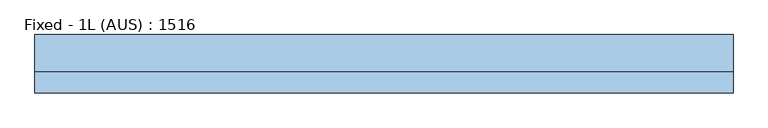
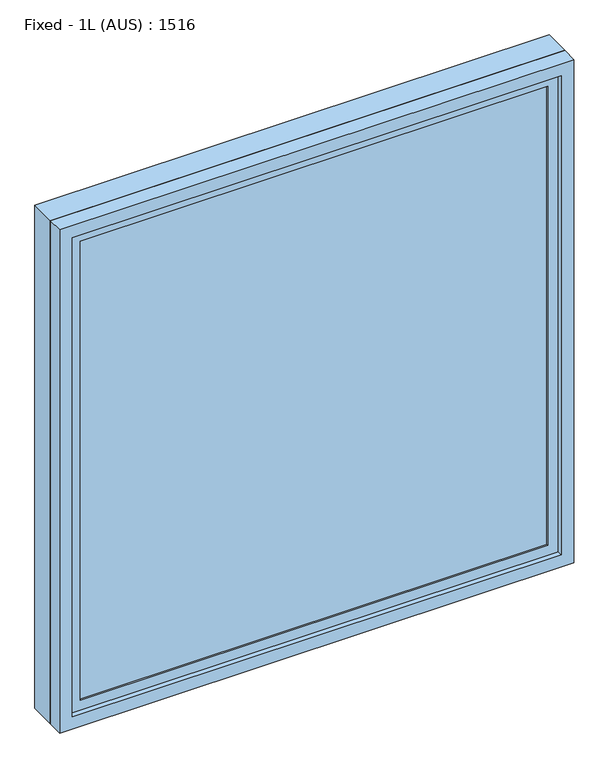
"""IFC4 building model written with IfcOpenShell, lengths in millimetres: window geometry, Fixed - 1L (AUS) : 1516."""

from ifc_helpers import new_model, si_unit, frame, origin, place, context, project, spatial, polyline, outline, extrude, source, transform, mapped, element, save


def fixed_1l_aus_1516_2310d1c3(model_context):
    return source(origin(), model_context, "Body", "SweptSolid", [
        extrude(outline(polyline([(985.173759, -9.471869), (985.173759, -15.471869), (-332.826241, -15.471869), (-332.826241, -9.471869), (985.173759, -9.471869)])), frame((0.0, 0.0, 966.0), z_axis=(0.0, 0.0, 1.0), x_axis=(1.0, 0.0, 0.0)), (0.0, 0.0, 1.0), 1368.0),
        extrude(outline(polyline([(2364.0, -362.826241), (936.0, -362.826241), (936.0, 1015.173759), (2364.0, 1015.173759), (2364.0, -362.826241)]), holes=[polyline([(966.0, -332.826241), (2334.0, -332.826241), (2334.0, 985.173759), (966.0, 985.173759), (966.0, -332.826241)])]), frame((0.0, -19.971869, 0.0), z_axis=(0.0, 1.0, 0.0), x_axis=(0.0, 0.0, 1.0)), (0.0, 0.0, 1.0), 15.0),
        extrude(outline(polyline([(2400.0, -398.826241), (900.0, -398.826241), (900.0, 1051.173759), (2400.0, 1051.173759), (2400.0, -398.826241)]), holes=[polyline([(920.0, -378.826241), (2380.0, -378.826241), (2380.0, 1031.173759), (920.0, 1031.173759), (920.0, -378.826241)])]), frame((0.0, 10.0, 0.0), z_axis=(0.0, 1.0, 0.0), x_axis=(0.0, 0.0, 1.0)), (0.0, 0.0, 1.0), 76.0),
        extrude(outline(polyline([(2400.0, -398.826241), (900.0, -398.826241), (900.0, 1051.173759), (2400.0, 1051.173759), (2400.0, -398.826241)]), holes=[polyline([(936.0, -362.826241), (2364.0, -362.826241), (2364.0, 1015.173759), (936.0, 1015.173759), (936.0, -362.826241)])]), frame((0.0, -35.0, 0.0), z_axis=(0.0, 1.0, 0.0), x_axis=(0.0, 0.0, 1.0)), (0.0, 0.0, 1.0), 45.0),
    ])


if __name__ == "__main__":
    model = new_model("IFC4")
    model_context = context("Model", 3, world=origin())
    ifc_project = project(units=[si_unit("LENGTHUNIT", "METRE", prefix="MILLI")], contexts=[model_context])
    site = spatial("IfcSite", under=ifc_project)
    building = spatial("IfcBuilding", under=site)
    placement = place(None, origin())
    fixed_1l_aus_1516_shape = fixed_1l_aus_1516_2310d1c3(model_context)
    element("IfcWindow", 1, ObjectType="Fixed - 1L (AUS) : 1516", at=placement, inside=building, context=model_context, shape_type="MappedRepresentation", body=[
        mapped(fixed_1l_aus_1516_shape, transform((0.0, 0.0, 0.0), x_axis=(1.0, 0.0, 0.0), y_axis=(0.0, 1.0, 0.0), z_axis=(0.0, 0.0, 1.0))),
    ])
    save(model, "model.ifc")
